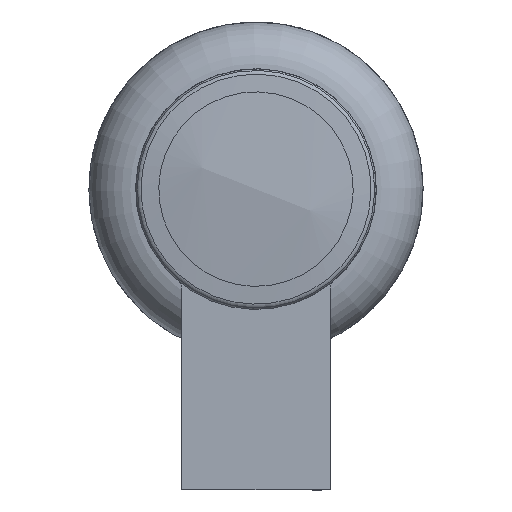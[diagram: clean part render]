
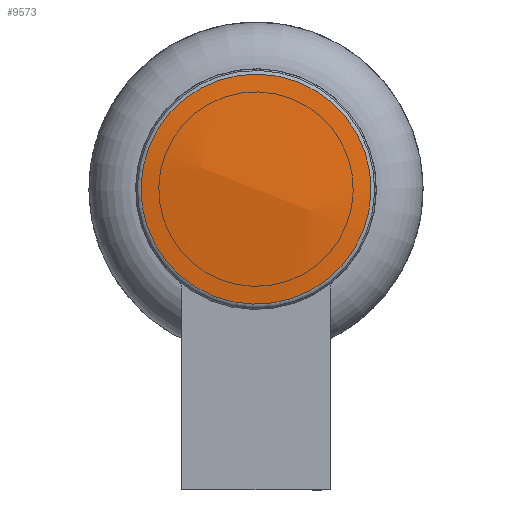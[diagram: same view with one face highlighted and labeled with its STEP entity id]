
A CAD part, front view. The second image highlights one B-rep face of the part: STEP entity #9573.
In plain terms, the highlighted spherical face has radius 168.893 mm.
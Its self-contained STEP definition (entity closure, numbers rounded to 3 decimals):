
#143=SPHERICAL_SURFACE('',#10622,168.893);
#905=FACE_OUTER_BOUND('',#1496,.T.);
#1496=EDGE_LOOP('',(#6834));
#3510=CIRCLE('',#10618,34.407);
#4245=VERTEX_POINT('',#15462);
#5224=EDGE_CURVE('',#4245,#4245,#3510,.T.);
#6834=ORIENTED_EDGE('',*,*,#5224,.F.);
#9573=ADVANCED_FACE('',(#905),#143,.T.);
#10618=AXIS2_PLACEMENT_3D('',#15464,#12216,#12217);
#10622=AXIS2_PLACEMENT_3D('',#15470,#12225,#12226);
#12216=DIRECTION('center_axis',(1.,0.,0.));
#12217=DIRECTION('ref_axis',(0.,0.,-1.));
#12225=DIRECTION('center_axis',(0.,0.,1.));
#12226=DIRECTION('ref_axis',(-1.,-0.001,0.));
#15462=CARTESIAN_POINT('',(3.542,0.,34.407));
#15464=CARTESIAN_POINT('Origin',(3.542,0.,
0.));
#15470=CARTESIAN_POINT('Origin',(168.893,0.,0.));
